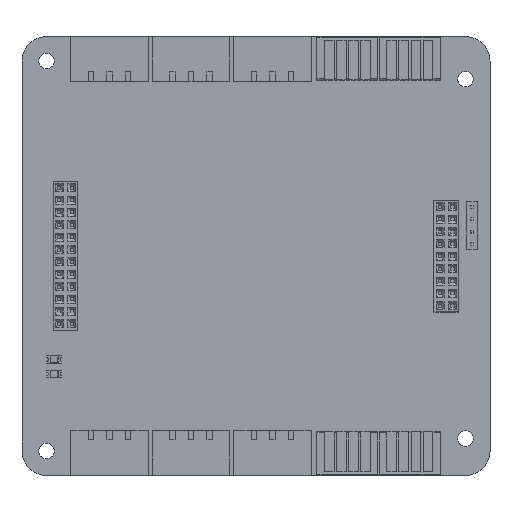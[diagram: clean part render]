
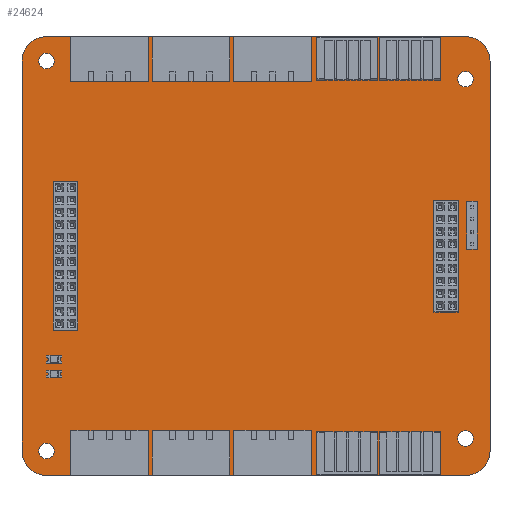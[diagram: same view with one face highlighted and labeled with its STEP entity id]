
A CAD part, top view. The second image highlights one B-rep face of the part: STEP entity #24624.
In plain terms, the highlighted planar face has unit normal (0, 0, 1).
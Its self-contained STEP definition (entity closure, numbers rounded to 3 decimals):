
#600=FACE_BOUND('',#3511,.T.);
#601=FACE_BOUND('',#3512,.T.);
#602=FACE_BOUND('',#3513,.T.);
#603=FACE_BOUND('',#3514,.T.);
#742=PLANE('',#26062);
#2088=FACE_OUTER_BOUND('',#3510,.T.);
#3510=EDGE_LOOP('',(#17617,#17618,#17619,#17620,#17621,#17622,#17623,#17624));
#3511=EDGE_LOOP('',(#17625));
#3512=EDGE_LOOP('',(#17626));
#3513=EDGE_LOOP('',(#17627));
#3514=EDGE_LOOP('',(#17628));
#5052=LINE('',#34146,#8393);
#5058=LINE('',#34174,#8399);
#5061=LINE('',#34182,#8402);
#5063=LINE('',#34200,#8404);
#8393=VECTOR('',#27632,80.);
#8399=VECTOR('',#27660,86.);
#8402=VECTOR('',#27669,86.);
#8404=VECTOR('',#27693,80.);
#11730=CIRCLE('',#26034,5.);
#11739=CIRCLE('',#26046,5.);
#11740=CIRCLE('',#26049,5.);
#11741=CIRCLE('',#26052,5.);
#11742=CIRCLE('',#26054,1.6);
#11743=CIRCLE('',#26056,1.6);
#11744=CIRCLE('',#26058,1.6);
#11745=CIRCLE('',#26060,1.6);
#11862=VERTEX_POINT('',#34133);
#11863=VERTEX_POINT('',#34134);
#11867=VERTEX_POINT('',#34144);
#11877=VERTEX_POINT('',#34168);
#11878=VERTEX_POINT('',#34172);
#11879=VERTEX_POINT('',#34176);
#11880=VERTEX_POINT('',#34177);
#11881=VERTEX_POINT('',#34184);
#11882=VERTEX_POINT('',#34188);
#11883=VERTEX_POINT('',#34191);
#11884=VERTEX_POINT('',#34194);
#11885=VERTEX_POINT('',#34197);
#14076=EDGE_CURVE('',#11862,#11863,#11730,.T.);
#14082=EDGE_CURVE('',#11867,#11862,#5052,.T.);
#14093=EDGE_CURVE('',#11877,#11867,#11739,.T.);
#14096=EDGE_CURVE('',#11878,#11877,#5058,.T.);
#14097=EDGE_CURVE('',#11879,#11880,#11740,.T.);
#14100=EDGE_CURVE('',#11863,#11879,#5061,.T.);
#14101=EDGE_CURVE('',#11881,#11878,#11741,.T.);
#14103=EDGE_CURVE('',#11882,#11882,#11742,.T.);
#14104=EDGE_CURVE('',#11883,#11883,#11743,.T.);
#14105=EDGE_CURVE('',#11884,#11884,#11744,.T.);
#14106=EDGE_CURVE('',#11885,#11885,#11745,.T.);
#14107=EDGE_CURVE('',#11880,#11881,#5063,.T.);
#17617=ORIENTED_EDGE('',*,*,#14076,.F.);
#17618=ORIENTED_EDGE('',*,*,#14082,.F.);
#17619=ORIENTED_EDGE('',*,*,#14093,.F.);
#17620=ORIENTED_EDGE('',*,*,#14096,.F.);
#17621=ORIENTED_EDGE('',*,*,#14101,.F.);
#17622=ORIENTED_EDGE('',*,*,#14107,.F.);
#17623=ORIENTED_EDGE('',*,*,#14097,.F.);
#17624=ORIENTED_EDGE('',*,*,#14100,.F.);
#17625=ORIENTED_EDGE('',*,*,#14103,.T.);
#17626=ORIENTED_EDGE('',*,*,#14104,.T.);
#17627=ORIENTED_EDGE('',*,*,#14105,.T.);
#17628=ORIENTED_EDGE('',*,*,#14106,.T.);
#24624=ADVANCED_FACE('',(#2088,#600,#601,#602,#603),#742,.T.);
#26034=AXIS2_PLACEMENT_3D('',#34135,#27622,#27623);
#26046=AXIS2_PLACEMENT_3D('',#34169,#27654,#27655);
#26049=AXIS2_PLACEMENT_3D('',#34178,#27663,#27664);
#26052=AXIS2_PLACEMENT_3D('',#34185,#27672,#27673);
#26054=AXIS2_PLACEMENT_3D('',#34189,#27677,#27678);
#26056=AXIS2_PLACEMENT_3D('',#34192,#27681,#27682);
#26058=AXIS2_PLACEMENT_3D('',#34195,#27685,#27686);
#26060=AXIS2_PLACEMENT_3D('',#34198,#27689,#27690);
#26062=AXIS2_PLACEMENT_3D('',#34201,#27694,#27695);
#27622=DIRECTION('center_axis',(0.,0.,-1.));
#27623=DIRECTION('ref_axis',(-0.707,0.707,0.));
#27632=DIRECTION('',(0.,1.,0.));
#27654=DIRECTION('center_axis',(0.,0.,-1.));
#27655=DIRECTION('ref_axis',(-0.707,-0.707,0.));
#27660=DIRECTION('',(-1.,0.,0.));
#27663=DIRECTION('center_axis',(0.,0.,-1.));
#27664=DIRECTION('ref_axis',(0.707,0.707,0.));
#27669=DIRECTION('',(1.,0.,0.));
#27672=DIRECTION('center_axis',(0.,0.,-1.));
#27673=DIRECTION('ref_axis',(0.707,-0.707,0.));
#27677=DIRECTION('center_axis',(0.,0.,-1.));
#27678=DIRECTION('ref_axis',(1.,0.,0.));
#27681=DIRECTION('center_axis',(0.,0.,-1.));
#27682=DIRECTION('ref_axis',(1.,0.,0.));
#27685=DIRECTION('center_axis',(0.,0.,-1.));
#27686=DIRECTION('ref_axis',(1.,0.,0.));
#27689=DIRECTION('center_axis',(0.,0.,-1.));
#27690=DIRECTION('ref_axis',(1.,0.,0.));
#27693=DIRECTION('',(0.,-1.,0.));
#27694=DIRECTION('center_axis',(0.,0.,1.));
#27695=DIRECTION('ref_axis',(1.,0.,0.));
#34133=CARTESIAN_POINT('',(0.,85.,2.));
#34134=CARTESIAN_POINT('',(5.,90.,2.));
#34135=CARTESIAN_POINT('Origin',(5.,85.,2.));
#34144=CARTESIAN_POINT('',(0.,5.,2.));
#34146=CARTESIAN_POINT('',(0.,90.,2.));
#34168=CARTESIAN_POINT('',(5.,0.,2.));
#34169=CARTESIAN_POINT('Origin',(5.,5.,2.));
#34172=CARTESIAN_POINT('',(91.,0.,2.));
#34174=CARTESIAN_POINT('',(0.,0.,2.));
#34176=CARTESIAN_POINT('',(91.,90.,2.));
#34177=CARTESIAN_POINT('',(96.,85.,2.));
#34178=CARTESIAN_POINT('Origin',(91.,85.,2.));
#34182=CARTESIAN_POINT('',(96.,90.,2.));
#34184=CARTESIAN_POINT('',(96.,5.,2.));
#34185=CARTESIAN_POINT('Origin',(91.,5.,2.));
#34188=CARTESIAN_POINT('',(6.6,5.,2.));
#34189=CARTESIAN_POINT('Origin',(5.,5.,2.));
#34191=CARTESIAN_POINT('',(6.6,85.,2.));
#34192=CARTESIAN_POINT('Origin',(5.,85.,2.));
#34194=CARTESIAN_POINT('',(92.6,81.3,2.));
#34195=CARTESIAN_POINT('Origin',(91.,81.3,2.));
#34197=CARTESIAN_POINT('',(92.6,7.6,2.));
#34198=CARTESIAN_POINT('Origin',(91.,7.6,2.));
#34200=CARTESIAN_POINT('',(96.,0.,2.));
#34201=CARTESIAN_POINT('Origin',(48.,45.,2.));
